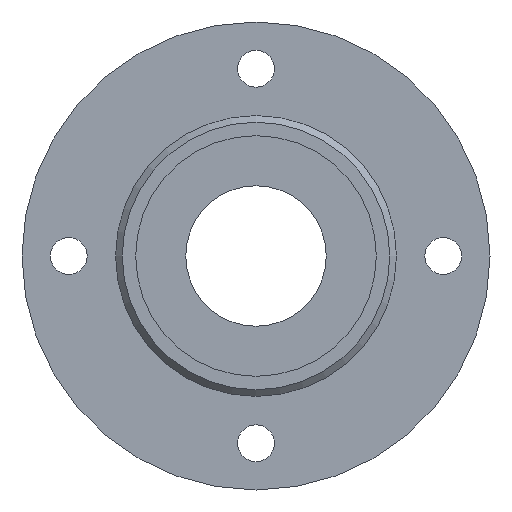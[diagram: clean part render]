
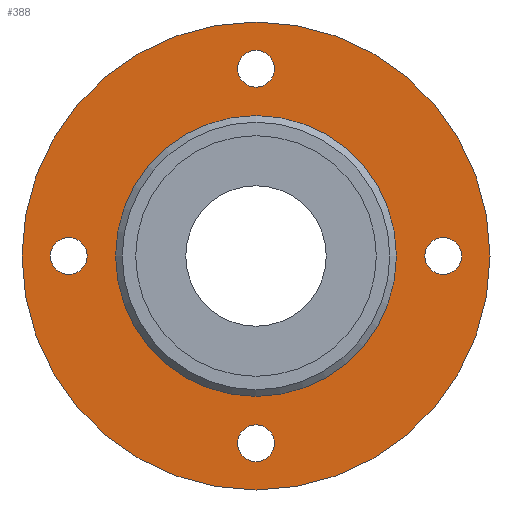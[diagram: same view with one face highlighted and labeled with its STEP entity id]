
A CAD part, left-side view. The second image highlights one B-rep face of the part: STEP entity #388.
In plain terms, the highlighted planar face has unit normal (-1, 0, 0).
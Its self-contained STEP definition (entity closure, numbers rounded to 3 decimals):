
#71=FACE_BOUND('',#137,.T.);
#72=FACE_BOUND('',#138,.T.);
#73=FACE_BOUND('',#139,.T.);
#74=FACE_BOUND('',#140,.T.);
#75=FACE_BOUND('',#141,.T.);
#103=FACE_OUTER_BOUND('',#136,.T.);
#136=EDGE_LOOP('',(#337));
#137=EDGE_LOOP('',(#338));
#138=EDGE_LOOP('',(#339));
#139=EDGE_LOOP('',(#340));
#140=EDGE_LOOP('',(#341));
#141=EDGE_LOOP('',(#342));
#153=CIRCLE('',#421,2.75);
#157=CIRCLE('',#428,2.75);
#161=CIRCLE('',#435,2.75);
#165=CIRCLE('',#442,2.75);
#178=CIRCLE('',#465,21.);
#179=CIRCLE('',#467,35.);
#185=VERTEX_POINT('',#618);
#189=VERTEX_POINT('',#631);
#193=VERTEX_POINT('',#644);
#197=VERTEX_POINT('',#657);
#209=VERTEX_POINT('',#698);
#210=VERTEX_POINT('',#702);
#218=EDGE_CURVE('',#185,#185,#153,.T.);
#224=EDGE_CURVE('',#189,#189,#157,.T.);
#230=EDGE_CURVE('',#193,#193,#161,.T.);
#236=EDGE_CURVE('',#197,#197,#165,.T.);
#254=EDGE_CURVE('',#209,#209,#178,.T.);
#256=EDGE_CURVE('',#210,#210,#179,.T.);
#337=ORIENTED_EDGE('',*,*,#256,.F.);
#338=ORIENTED_EDGE('',*,*,#218,.T.);
#339=ORIENTED_EDGE('',*,*,#224,.T.);
#340=ORIENTED_EDGE('',*,*,#230,.T.);
#341=ORIENTED_EDGE('',*,*,#236,.T.);
#342=ORIENTED_EDGE('',*,*,#254,.T.);
#364=PLANE('',#466);
#388=ADVANCED_FACE('',(#103,#71,#72,#73,#74,#75),#364,.T.);
#421=AXIS2_PLACEMENT_3D('',#620,#489,#490);
#428=AXIS2_PLACEMENT_3D('',#633,#505,#506);
#435=AXIS2_PLACEMENT_3D('',#646,#521,#522);
#442=AXIS2_PLACEMENT_3D('',#659,#537,#538);
#465=AXIS2_PLACEMENT_3D('',#699,#588,#589);
#466=AXIS2_PLACEMENT_3D('',#701,#591,#592);
#467=AXIS2_PLACEMENT_3D('',#703,#593,#594);
#489=DIRECTION('center_axis',(1.,0.,0.));
#490=DIRECTION('ref_axis',(0.,-1.,0.));
#505=DIRECTION('center_axis',(1.,0.,0.));
#506=DIRECTION('ref_axis',(0.,0.,1.));
#521=DIRECTION('center_axis',(1.,0.,0.));
#522=DIRECTION('ref_axis',(0.,1.,0.));
#537=DIRECTION('center_axis',(1.,0.,0.));
#538=DIRECTION('ref_axis',(0.,0.,-1.));
#588=DIRECTION('center_axis',(1.,0.,0.));
#589=DIRECTION('ref_axis',(0.,0.,-1.));
#591=DIRECTION('center_axis',(-1.,0.,0.));
#592=DIRECTION('ref_axis',(0.,0.,1.));
#593=DIRECTION('center_axis',(1.,0.,0.));
#594=DIRECTION('ref_axis',(0.,0.,-1.));
#618=CARTESIAN_POINT('',(5.,2.75,-28.));
#620=CARTESIAN_POINT('Origin',(5.,0.,-28.));
#631=CARTESIAN_POINT('',(5.,-28.,-2.75));
#633=CARTESIAN_POINT('Origin',(5.,-28.,0.));
#644=CARTESIAN_POINT('',(5.,-2.75,28.));
#646=CARTESIAN_POINT('Origin',(5.,0.,28.));
#657=CARTESIAN_POINT('',(5.,28.,2.75));
#659=CARTESIAN_POINT('Origin',(5.,28.,0.));
#698=CARTESIAN_POINT('',(5.,-21.,0.));
#699=CARTESIAN_POINT('Origin',(5.,0.,0.));
#701=CARTESIAN_POINT('Origin',(5.,35.,0.));
#702=CARTESIAN_POINT('',(5.,-35.,0.));
#703=CARTESIAN_POINT('Origin',(5.,0.,0.));
